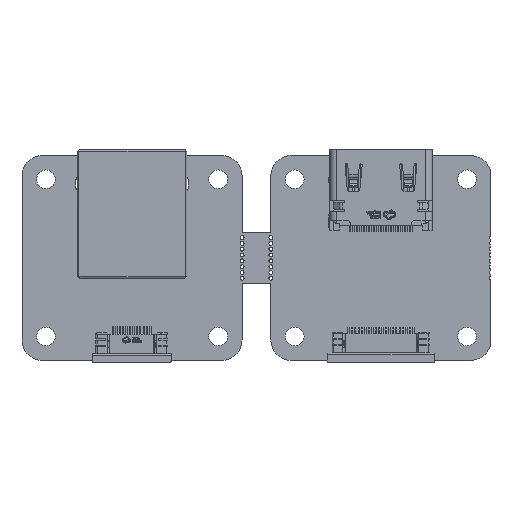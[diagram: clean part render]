
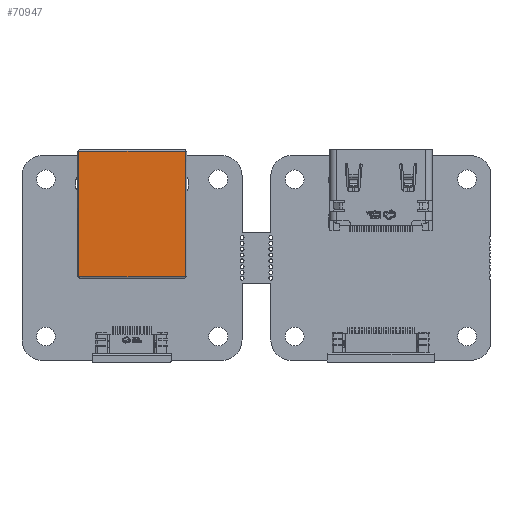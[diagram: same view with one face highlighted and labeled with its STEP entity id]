
A CAD part, top view. The second image highlights one B-rep face of the part: STEP entity #70947.
In plain terms, the highlighted planar face has unit normal (0, 0, 1).
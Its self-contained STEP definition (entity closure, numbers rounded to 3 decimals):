
#7429=FACE_OUTER_BOUND('',#11210,.T.);
#11210=EDGE_LOOP('',(#49636,#49637,#49638,#49639));
#15413=LINE('',#100512,#23515);
#15414=LINE('',#100577,#23516);
#15497=LINE('',#100783,#23599);
#15498=LINE('',#100784,#23600);
#23515=VECTOR('',#81072,1.);
#23516=VECTOR('',#81083,1.);
#23599=VECTOR('',#81212,1.);
#23600=VECTOR('',#81213,1.);
#31627=VERTEX_POINT('',#100500);
#31628=VERTEX_POINT('',#100511);
#31632=VERTEX_POINT('',#100565);
#31633=VERTEX_POINT('',#100576);
#38544=EDGE_CURVE('',#31628,#31627,#15413,.T.);
#38553=EDGE_CURVE('',#31633,#31632,#15414,.T.);
#38643=EDGE_CURVE('',#31627,#31633,#15497,.T.);
#38644=EDGE_CURVE('',#31632,#31628,#15498,.T.);
#49636=ORIENTED_EDGE('',*,*,#38544,.T.);
#49637=ORIENTED_EDGE('',*,*,#38643,.T.);
#49638=ORIENTED_EDGE('',*,*,#38553,.T.);
#49639=ORIENTED_EDGE('',*,*,#38644,.T.);
#68235=PLANE('',#74894);
#70947=ADVANCED_FACE('',(#7429),#68235,.T.);
#74894=AXIS2_PLACEMENT_3D('',#100782,#81210,#81211);
#81072=DIRECTION('',(0.,1.,0.));
#81083=DIRECTION('',(0.,-1.,0.));
#81210=DIRECTION('center_axis',(0.,0.,1.));
#81211=DIRECTION('ref_axis',(1.,0.,0.));
#81212=DIRECTION('',(-1.,0.,0.));
#81213=DIRECTION('',(1.,0.,0.));
#100500=CARTESIAN_POINT('',(7.79,7.698,13.5));
#100511=CARTESIAN_POINT('',(7.79,-10.682,13.5));
#100512=CARTESIAN_POINT('',(7.79,-10.682,13.5));
#100565=CARTESIAN_POINT('',(-7.79,-10.682,13.5));
#100576=CARTESIAN_POINT('',(-7.79,7.698,13.5));
#100577=CARTESIAN_POINT('',(-7.79,7.698,13.5));
#100782=CARTESIAN_POINT('Origin',(0.,-1.492,13.5));
#100783=CARTESIAN_POINT('',(7.79,7.698,13.5));
#100784=CARTESIAN_POINT('',(-7.79,-10.682,13.5));
